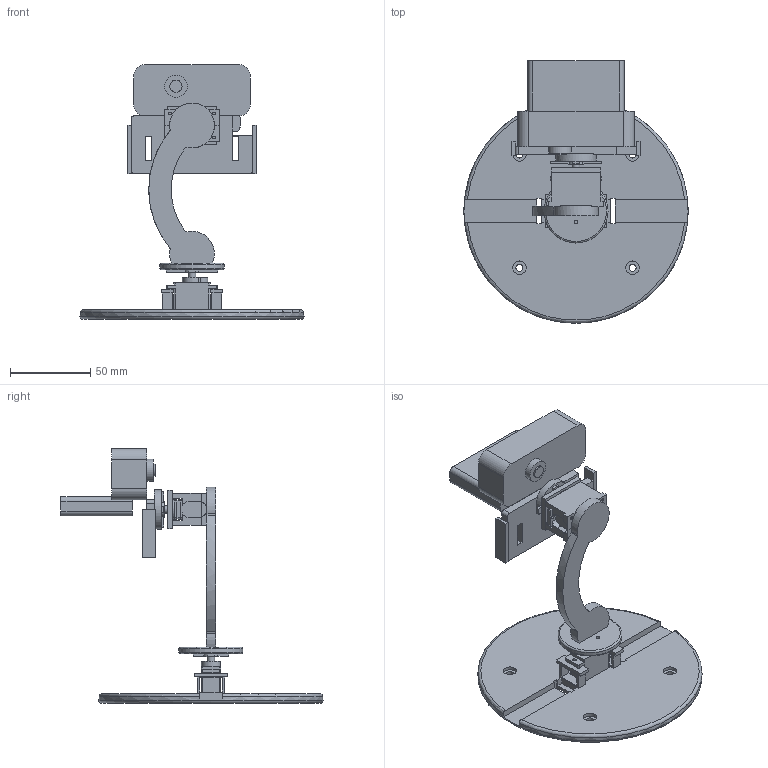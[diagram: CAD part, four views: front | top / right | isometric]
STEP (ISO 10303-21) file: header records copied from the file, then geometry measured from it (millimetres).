
FILE_DESCRIPTION(('Open CASCADE Model'),'2;1');
FILE_NAME('Open CASCADE Shape Model','2026-08-26T11:57:32',('Author'),( 'Open CASCADE'),'Open CASCADE STEP processor 7.8','Open CASCADE 7.8' ,'Unknown');
FILE_SCHEMA(('AUTOMOTIVE_DESIGN { 1 0 10303 214 1 1 1 1 }'));
Length unit declared in the file: millimetre
Products named in the file (11): C270_PanTilt_Full_Assembly_With_Servos; PanServo_StabilityBase; CurvedArm_SG90_TiltHolder; SG90_RetainingCap; Logitech_C270_ClipCradle; SG90_Pan_Body; SG90_Pan_Horn; SG90_Tilt_Body; SG90_Tilt_Horn; C270_Webcam_Body; C270_Fixed_Clip
Assembly tree (10 placements, depth 2):
  C270_PanTilt_Full_Assembly_With_Servos
    PanServo_StabilityBase
    CurvedArm_SG90_TiltHolder
    SG90_RetainingCap
    Logitech_C270_ClipCradle
    SG90_Pan_Body
    SG90_Pan_Horn
    SG90_Tilt_Body
    SG90_Tilt_Horn
    C270_Webcam_Body
    C270_Fixed_Clip
Bounding box: 140 x 163.64 x 158.91 mm (x, y, z)
Volume: 219232.5 mm3; surface area: 79305.2 mm2
Topology: 10 solids, 10 shells, 332 faces, 895 edges, 594 vertices
Faces by surface type: plane 225, cylinder 94, bspline 8, torus 5
Full cylindrical faces by diameter (mm): 1.8 x4, 1.9 x2, 2 x10, 2.2 x4, 2.4 x4, 3.2 x2, 4.4 x4, 4.7 x2, 7.6 x1, 8.4 x4, 9.6 x2, 14 x1, 21 x1, 25 x1, 40 x1, 140 x1
Entity records: 23044 total; most frequent: CARTESIAN_POINT 5311, DIRECTION 3091, ORIENTED_EDGE 1790, PCURVE 1790, DEFINITIONAL_REPRESENTATION 1790, LINE 1746, VECTOR 1746, EDGE_CURVE 895
